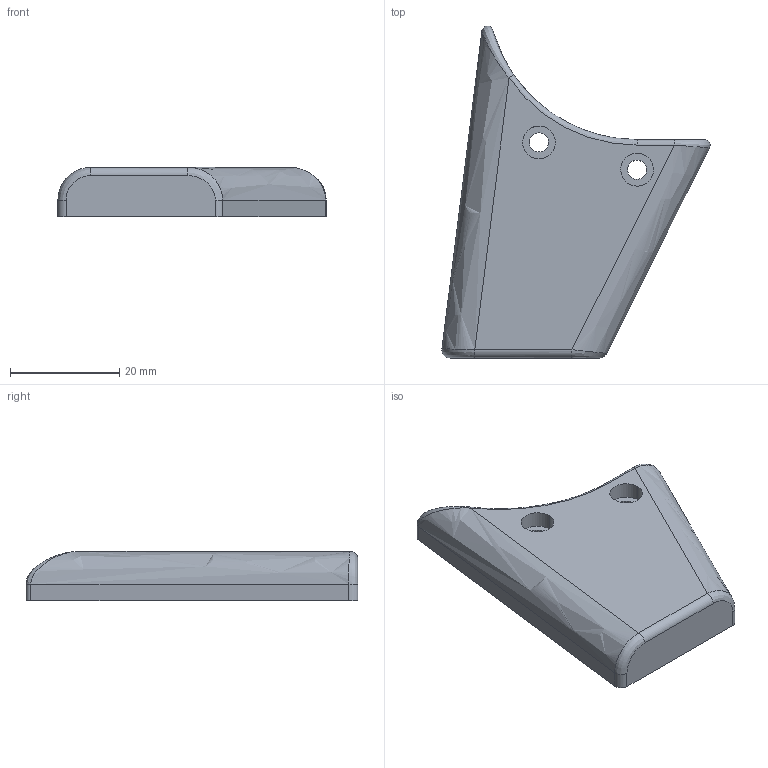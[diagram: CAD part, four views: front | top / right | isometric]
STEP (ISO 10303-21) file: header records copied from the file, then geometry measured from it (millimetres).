
FILE_DESCRIPTION(/* description */ (''),/* implementation_level */ '2;1');
FILE_NAME(/* name */ 'GRIP-1~3',/* time_stamp */ '2015-10-29T17:03:02+09:00',/* author */ (''),/* organization */ (''),/* preprocessor_version */ 'ST-DEVELOPER v15',/* originating_system */ '',/* authorisation */ '');
FILE_SCHEMA (('CONFIG_CONTROL_DESIGN'));
Length unit declared in the file: millimetre
Products named in the file (1): Document
Bounding box: 49.17 x 60.85 x 9 mm (x, y, z)
Volume: 12961.6 mm3; surface area: 4967.5 mm2
Topology: 1 solids, 1 shells, 39 faces, 93 edges, 59 vertices
Faces by surface type: bspline 33, plane 6
Entity records: 1415 total; most frequent: CARTESIAN_POINT 792, ORIENTED_EDGE 186, EDGE_CURVE 93, VERTEX_POINT 59, EDGE_LOOP 46, ADVANCED_FACE 39, FACE_OUTER_BOUND 39, B_SPLINE_CURVE_WITH_KNOTS 38
